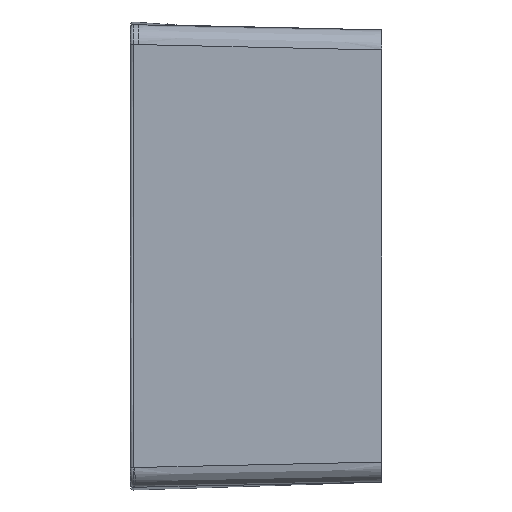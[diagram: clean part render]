
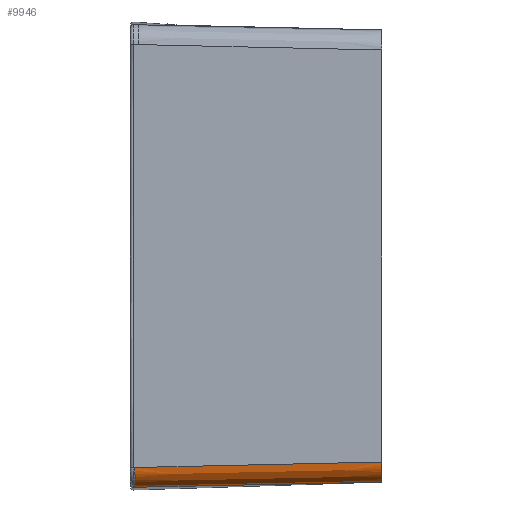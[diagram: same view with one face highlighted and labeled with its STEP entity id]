
A CAD part, left-side view. The second image highlights one B-rep face of the part: STEP entity #9946.
In plain terms, the highlighted free-form (B-spline) face has degree [3, 2] with [4, 3] control points.
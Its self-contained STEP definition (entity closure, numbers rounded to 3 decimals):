
#365 = CARTESIAN_POINT ( 'NONE',  ( -413.806, -250., 438.078 ) ) ;
#730 = EDGE_CURVE ( 'NONE', #2583, #11887, #14906, .T. ) ;
#1425 = CIRCLE ( 'NONE', #23138, 20. ) ;
#1838 = EDGE_CURVE ( 'NONE', #14836, #24765, #1425, .T. ) ;
#2130 = CARTESIAN_POINT ( 'NONE',  ( -397.713, -250., 425.254 ) ) ;
#2252 = CARTESIAN_POINT ( 'NONE',  ( -395.088, -250., 425.125 ) ) ;
#2583 = VERTEX_POINT ( 'NONE', #13400 ) ;
#2598 = CARTESIAN_POINT ( 'NONE',  ( -405.123, -250., 427.775 ) ) ;
#2743 = CARTESIAN_POINT ( 'NONE',  ( -415.084, -250., 444.465 ) ) ;
#4120 = DIRECTION ( 'NONE',  ( -1., -0.021, -0.016 ) ) ;
#4203 = FACE_OUTER_BOUND ( 'NONE', #4610, .T. ) ;
#4610 = EDGE_LOOP ( 'NONE', ( #9590, #5674, #15340, #30625 ) ) ;
#4820 = CARTESIAN_POINT ( 'NONE',  ( -408.771, -250., 430.523 ) ) ;
#4963 = CARTESIAN_POINT ( 'NONE',  ( -415.084, -250., 445.121 ) ) ;
#4967 = CARTESIAN_POINT ( 'NONE',  ( -409.464, -250., 431.217 ) ) ;
#5269 = CARTESIAN_POINT ( 'NONE',  ( -411.906, -250., 434.297 ) ) ;
#5505 = EDGE_CURVE ( 'NONE', #24765, #2583, #18266, .T. ) ;
#5674 = ORIENTED_EDGE ( 'NONE', *, *, #8224, .F. ) ;
#6576 = CARTESIAN_POINT ( 'NONE',  ( -418.51, -86.789, 441.511 ) ) ;
#7197 = CARTESIAN_POINT ( 'NONE',  ( -412.414, -250., 435.131 ) ) ;
#7344 = CARTESIAN_POINT ( 'NONE',  ( -416.779, -169.372, 443.335 ) ) ;
#7348 = CARTESIAN_POINT ( 'NONE',  ( -413.312, -250., 436.864 ) ) ;
#7499 = CARTESIAN_POINT ( 'NONE',  ( -402.151, -250., 426.402 ) ) ;
#7654 = CARTESIAN_POINT ( 'NONE',  ( -401.227, -250., 426.07 ) ) ;
#8224 = EDGE_CURVE ( 'NONE', #11887, #14836, #16706, .T. ) ;
#8790 = CARTESIAN_POINT ( 'NONE',  ( -418.287, -87.578, 421.918 ) ) ;
#9534 = CARTESIAN_POINT ( 'NONE',  ( -420.23, -4.445, 439.697 ) ) ;
#9564 = CARTESIAN_POINT ( 'NONE',  ( -414.829, -250., 441.87 ) ) ;
#9590 = ORIENTED_EDGE ( 'NONE', *, *, #1838, .F. ) ;
#9874 = CARTESIAN_POINT ( 'NONE',  ( -413.687, -250., 437.77 ) ) ;
#9946 = ADVANCED_FACE ( 'NONE', ( #4203 ), #25672, .T. ) ;
#10029 = CARTESIAN_POINT ( 'NONE',  ( -399.329, -250., 425.577 ) ) ;
#11350 = CARTESIAN_POINT ( 'NONE',  ( -395.088, -250., 425.125 ) ) ;
#11788 = CARTESIAN_POINT ( 'NONE',  ( -410.132, -250., 431.942 ) ) ;
#11887 = VERTEX_POINT ( 'NONE', #2252 ) ;
#12257 = CARTESIAN_POINT ( 'NONE',  ( -399.648, -250., 425.649 ) ) ;
#12408 = CARTESIAN_POINT ( 'NONE',  ( -415.052, -250., 443.813 ) ) ;
#13153 = CARTESIAN_POINT ( 'NONE',  ( -400.237, -4.02, 440.01 ) ) ;
#13400 = CARTESIAN_POINT ( 'NONE',  ( -415.084, -250., 445.121 ) ) ;
#13708 = CARTESIAN_POINT ( 'NONE',  ( -415.053, -251.477, 445.153 ) ) ;
#14008 = CARTESIAN_POINT ( 'NONE',  ( -400.505, -4.441, 420.016 ) ) ;
#14474 = CARTESIAN_POINT ( 'NONE',  ( -395.088, -250., 425.125 ) ) ;
#14623 = CARTESIAN_POINT ( 'NONE',  ( -407.282, -250., 429.258 ) ) ;
#14779 = CARTESIAN_POINT ( 'NONE',  ( -414.027, -250., 438.695 ) ) ;
#14836 = VERTEX_POINT ( 'NONE', #18316 ) ;
#14906 = B_SPLINE_CURVE_WITH_KNOTS ( 'NONE', 3,
 ( #26948, #2743, #12408, #26488, #9564, #17002, #22033, #14779, #365, #9874, #7348, #19373, #7197, #17149, #5269, #29032, #29175, #11788, #24270, #4967, #4820, #23804, #14623, #24424, #2598, #21421, #7499, #7654, #21732, #12257, #10029, #2130, #19677, #14474 ),
 .UNSPECIFIED., .F., .F.,
 ( 4, 2, 2, 1, 2, 2, 1, 2, 2, 1, 2, 2, 2, 2, 2, 1, 2, 2, 4 ),
 ( 0., 0.062, 0.125, 0.187, 0.219, 0.25, 0.313, 0.344, 0.375, 0.437, 0.469, 0.5, 0.562, 0.625, 0.75, 0.812, 0.844, 0.875, 1. ),
 .UNSPECIFIED. ) ;
#15340 = ORIENTED_EDGE ( 'NONE', *, *, #730, .F. ) ;
#15622 = CARTESIAN_POINT ( 'NONE',  ( -396.874, -169.308, 423.442 ) ) ;
#16239 = CARTESIAN_POINT ( 'NONE',  ( -420.23, -4.445, 439.697 ) ) ;
#16706 = B_SPLINE_CURVE_WITH_KNOTS ( 'NONE', 3,
 ( #11350, #15622, #20980, #30627 ),
 .UNSPECIFIED., .F., .F.,
 ( 4, 4 ),
 ( 0., 1. ),
 .UNSPECIFIED. ) ;
#17002 = CARTESIAN_POINT ( 'NONE',  ( -414.573, -250., 440.58 ) ) ;
#17149 = CARTESIAN_POINT ( 'NONE',  ( -412.079, -250., 434.572 ) ) ;
#18266 = B_SPLINE_CURVE_WITH_KNOTS ( 'NONE', 3,
 ( #29028, #24111, #7344, #4963 ),
 .UNSPECIFIED., .F., .F.,
 ( 4, 4 ),
 ( 0., 1. ),
 .UNSPECIFIED. ) ;
#18316 = CARTESIAN_POINT ( 'NONE',  ( -400.505, -4.441, 420.016 ) ) ;
#19373 = CARTESIAN_POINT ( 'NONE',  ( -412.895, -250., 435.981 ) ) ;
#19677 = CARTESIAN_POINT ( 'NONE',  ( -396.407, -250., 425.125 ) ) ;
#20980 = CARTESIAN_POINT ( 'NONE',  ( -398.679, -87.455, 421.739 ) ) ;
#21115 = CARTESIAN_POINT ( 'NONE',  ( -398.694, -86.785, 421.725 ) ) ;
#21273 = CARTESIAN_POINT ( 'NONE',  ( -396.878, -169.129, 423.439 ) ) ;
#21421 = CARTESIAN_POINT ( 'NONE',  ( -403.969, -250., 427.157 ) ) ;
#21428 = CARTESIAN_POINT ( 'NONE',  ( -415.046, -251.893, 425.163 ) ) ;
#21732 = CARTESIAN_POINT ( 'NONE',  ( -400.283, -250., 425.808 ) ) ;
#22033 = CARTESIAN_POINT ( 'NONE',  ( -414.335, -250., 439.627 ) ) ;
#23138 = AXIS2_PLACEMENT_3D ( 'NONE', #13153, #23251, #4120 ) ;
#23251 = DIRECTION ( 'NONE',  ( -0.021, 1., -0.021 ) ) ;
#23338 = CARTESIAN_POINT ( 'NONE',  ( -416.784, -169.133, 443.33 ) ) ;
#23804 = CARTESIAN_POINT ( 'NONE',  ( -408.288, -250., 430.085 ) ) ;
#24111 = CARTESIAN_POINT ( 'NONE',  ( -418.494, -87.52, 441.527 ) ) ;
#24270 = CARTESIAN_POINT ( 'NONE',  ( -409.692, -250., 431.457 ) ) ;
#24424 = CARTESIAN_POINT ( 'NONE',  ( -406.76, -250., 428.87 ) ) ;
#24765 = VERTEX_POINT ( 'NONE', #9534 ) ;
#25672 =( BOUNDED_SURFACE ( )  B_SPLINE_SURFACE ( 3, 2, ( 
 ( #13708, #21428, #26176 ),
 ( #23338, #28257, #21273 ),
 ( #6576, #8790, #21115 ),
 ( #16239, #26031, #14008 ) ),
 .UNSPECIFIED., .F., .F., .F. ) 
 B_SPLINE_SURFACE_WITH_KNOTS ( ( 4, 4 ),
 ( 3, 3 ),
 ( 0.364, 0.611 ),
 ( 0., 1. ),
 .UNSPECIFIED. ) 
 GEOMETRIC_REPRESENTATION_ITEM ( )  RATIONAL_B_SPLINE_SURFACE ( (
 ( 1., 0.707, 1.),
 ( 1., 0.711, 1.),
 ( 1., 0.714, 1.),
 ( 1., 0.717, 1.) ) ) 
 REPRESENTATION_ITEM ( '' )  SURFACE ( )  );
#26031 = CARTESIAN_POINT ( 'NONE',  ( -419.918, -4.841, 420.284 ) ) ;
#26176 = CARTESIAN_POINT ( 'NONE',  ( -395.056, -251.473, 425.156 ) ) ;
#26488 = CARTESIAN_POINT ( 'NONE',  ( -414.925, -250., 442.514 ) ) ;
#26948 = CARTESIAN_POINT ( 'NONE',  ( -415.084, -250., 445.121 ) ) ;
#28257 = CARTESIAN_POINT ( 'NONE',  ( -416.663, -169.947, 423.544 ) ) ;
#29028 = CARTESIAN_POINT ( 'NONE',  ( -420.23, -4.445, 439.697 ) ) ;
#29032 = CARTESIAN_POINT ( 'NONE',  ( -411.358, -250., 433.477 ) ) ;
#29175 = CARTESIAN_POINT ( 'NONE',  ( -410.773, -250., 432.687 ) ) ;
#30625 = ORIENTED_EDGE ( 'NONE', *, *, #5505, .F. ) ;
#30627 = CARTESIAN_POINT ( 'NONE',  ( -400.505, -4.441, 420.016 ) ) ;
